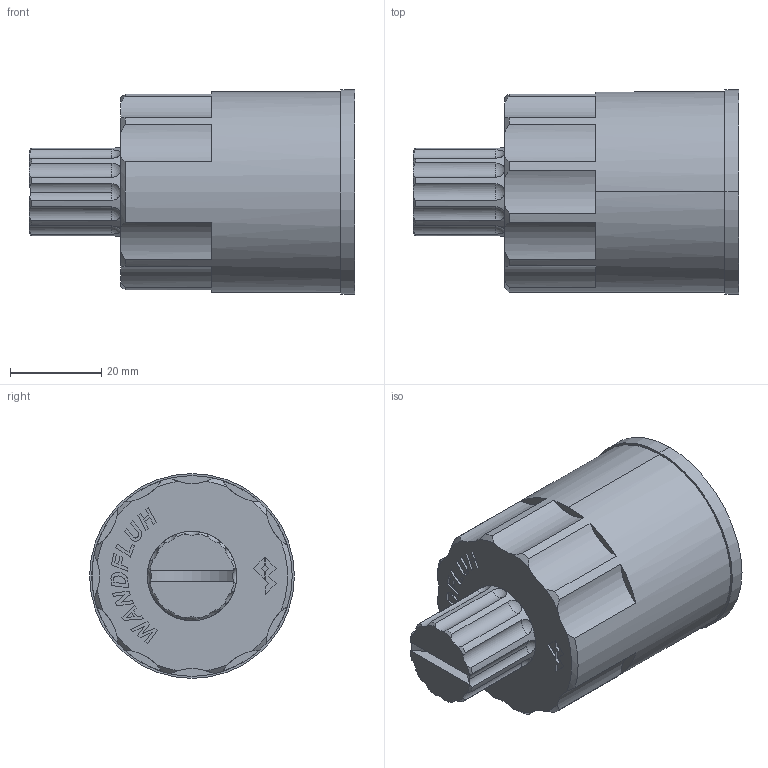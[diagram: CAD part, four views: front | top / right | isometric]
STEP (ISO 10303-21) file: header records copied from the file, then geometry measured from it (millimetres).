
FILE_DESCRIPTION (( 'STEP AP214' ), '1' );
FILE_NAME ('HS1.STEP', '2014-07-14T09:53:44', ( '' ), ( '' ), 'SwSTEP 2.0', 'SolidWorks 2014', '' );
FILE_SCHEMA (( 'AUTOMOTIVE_DESIGN' ));
Length unit declared in the file: millimetre
Products named in the file (2): HS1
Bounding box: 71.4 x 45 x 45 mm (x, y, z)
Volume: 52574.7 mm3; surface area: 17349.6 mm2
Topology: 3 solids, 3 shells, 240 faces, 654 edges, 430 vertices
Faces by surface type: plane 127, cylinder 46, cone 31, bspline 16, sphere 16, torus 4
Entity records: 11347 total; most frequent: CARTESIAN_POINT 2704, ORIENTED_EDGE 1282, DIRECTION 1168, EDGE_CURVE 641, VERTEX_POINT 425, AXIS2_PLACEMENT_3D 397, VECTOR 374, LINE 374
